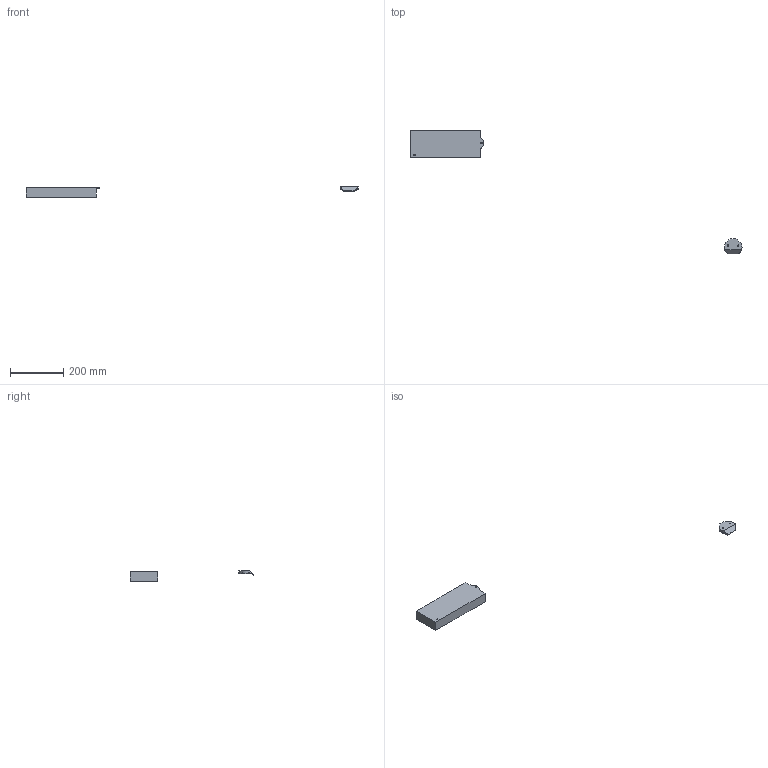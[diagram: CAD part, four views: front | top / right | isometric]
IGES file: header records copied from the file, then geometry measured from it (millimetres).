
Start section: Data from XPlus IGES,  Spatial Corp. Copyright (c) 1999-2004
Global section: file name: 9190608.igs; native system:  By Spatial Corp.; preprocessor: XPlus ACIS/IGES 3.0; author: Noname; organization: Noname; date: 20180228.104832; units: millimetre
Bounding box: 1247.54 x 464.48 x 40.5 mm (x, y, z)
Surface area: 91775.4 mm2 (no closed solid volume)
Topology: 0 solids, 0 shells, 33 faces, 174 edges, 174 vertices
Faces by surface type: revolution 20, extrusion 13
